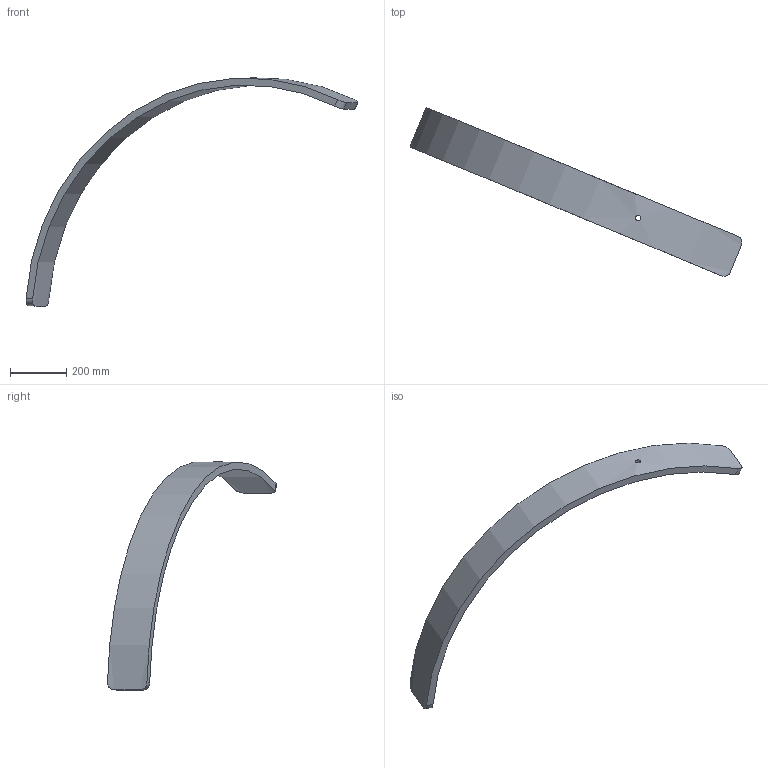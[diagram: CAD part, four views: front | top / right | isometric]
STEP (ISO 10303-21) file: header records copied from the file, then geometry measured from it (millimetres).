
FILE_DESCRIPTION (( 'STEP AP214' ), '1' );
FILE_NAME ('Section 6 AR.STEP', '2025-01-09T19:43:24', ( '' ), ( '' ), 'SwSTEP 2.0', 'SolidWorks 2024', '' );
FILE_SCHEMA (( 'AUTOMOTIVE_DESIGN' ));
Length unit declared in the file: inch
Products named in the file (1): Section 6 AR
Bounding box: 1184.04 x 603.02 x 813.43 mm (x, y, z)
Volume: 6420587.6 mm3; surface area: 598284.7 mm2
Topology: 1 solids, 1 shells, 11 faces, 27 edges, 18 vertices
Faces by surface type: cylinder 7, plane 4
Full cylindrical faces by diameter (mm): 19.431 x1
Entity records: 745 total; most frequent: CARTESIAN_POINT 470, ORIENTED_EDGE 52, DIRECTION 44, EDGE_CURVE 26, VERTEX_POINT 18, AXIS2_PLACEMENT_3D 16, EDGE_LOOP 14, LINE 12
